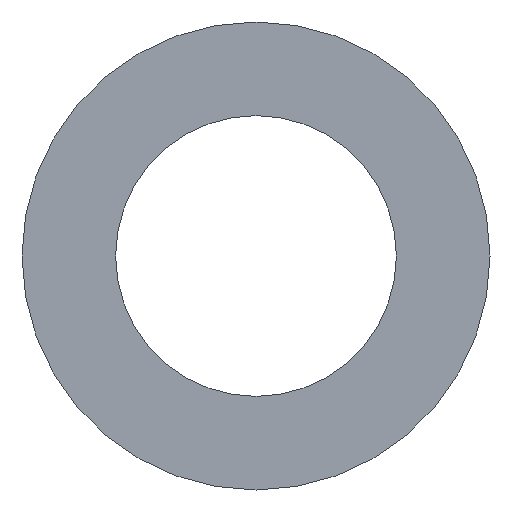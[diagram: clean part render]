
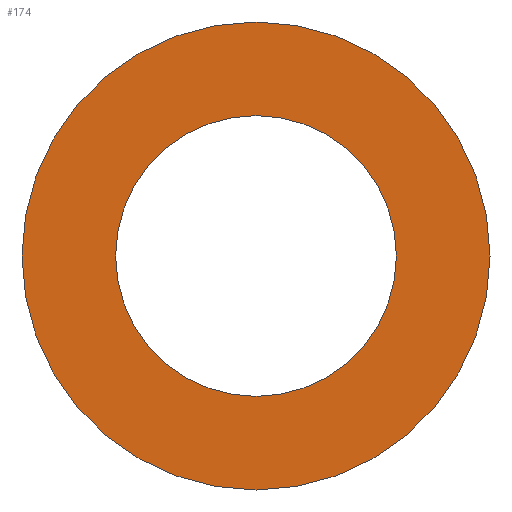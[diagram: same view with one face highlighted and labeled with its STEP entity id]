
A CAD part, left-side view. The second image highlights one B-rep face of the part: STEP entity #174.
In plain terms, the highlighted planar face has unit normal (-1, 0, 0).
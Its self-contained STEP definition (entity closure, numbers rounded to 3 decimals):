
#4 = CARTESIAN_POINT ( 'NONE',  ( 0., 1.5, 0. ) ) ;
#7 = CARTESIAN_POINT ( 'NONE',  ( 0., 0., 0. ) ) ;
#12 = CARTESIAN_POINT ( 'NONE',  ( 0., 0., 0. ) ) ;
#22 = CIRCLE ( 'NONE', #240, 2.5 ) ;
#34 = CIRCLE ( 'NONE', #96, 1.5 ) ;
#36 = ORIENTED_EDGE ( 'NONE', *, *, #121, .F. ) ;
#42 = CIRCLE ( 'NONE', #101, 1.5 ) ;
#64 = DIRECTION ( 'NONE',  ( -1., 0., 0. ) ) ;
#66 = CARTESIAN_POINT ( 'NONE',  ( 0., -1.5, 0. ) ) ;
#71 = DIRECTION ( 'NONE',  ( 0., 1., 0. ) ) ;
#73 = DIRECTION ( 'NONE',  ( -1., 0., 0. ) ) ;
#75 = AXIS2_PLACEMENT_3D ( 'NONE', #7, #165, #71 ) ;
#91 = DIRECTION ( 'NONE',  ( 1., 0., 0. ) ) ;
#96 = AXIS2_PLACEMENT_3D ( 'NONE', #162, #73, #200 ) ;
#101 = AXIS2_PLACEMENT_3D ( 'NONE', #232, #64, #140 ) ;
#107 = DIRECTION ( 'NONE',  ( 1., 0., 0. ) ) ;
#108 = CARTESIAN_POINT ( 'NONE',  ( 0., 2.5, 0. ) ) ;
#119 = VERTEX_POINT ( 'NONE', #66 ) ;
#121 = EDGE_CURVE ( 'NONE', #119, #134, #42, .T. ) ;
#126 = CARTESIAN_POINT ( 'NONE',  ( 0., -2.5, 0. ) ) ;
#134 = VERTEX_POINT ( 'NONE', #4 ) ;
#135 = EDGE_CURVE ( 'NONE', #134, #119, #34, .T. ) ;
#140 = DIRECTION ( 'NONE',  ( 0., -1., 0. ) ) ;
#144 = CARTESIAN_POINT ( 'NONE',  ( 0., 0., 0. ) ) ;
#150 = FACE_OUTER_BOUND ( 'NONE', #249, .T. ) ;
#162 = CARTESIAN_POINT ( 'NONE',  ( 0., 0., 0. ) ) ;
#165 = DIRECTION ( 'NONE',  ( 1., 0., 0. ) ) ;
#173 = ORIENTED_EDGE ( 'NONE', *, *, #229, .F. ) ;
#174 = ADVANCED_FACE ( 'NONE', ( #219, #150 ), #237, .F. ) ;
#200 = DIRECTION ( 'NONE',  ( 0., 1., 0. ) ) ;
#206 = CIRCLE ( 'NONE', #245, 2.5 ) ;
#207 = ORIENTED_EDGE ( 'NONE', *, *, #213, .F. ) ;
#212 = DIRECTION ( 'NONE',  ( 0., 1., 0. ) ) ;
#213 = EDGE_CURVE ( 'NONE', #228, #222, #22, .T. ) ;
#219 = FACE_BOUND ( 'NONE', #220, .T. ) ;
#220 = EDGE_LOOP ( 'NONE', ( #226, #36 ) ) ;
#222 = VERTEX_POINT ( 'NONE', #108 ) ;
#226 = ORIENTED_EDGE ( 'NONE', *, *, #135, .F. ) ;
#228 = VERTEX_POINT ( 'NONE', #126 ) ;
#229 = EDGE_CURVE ( 'NONE', #222, #228, #206, .T. ) ;
#232 = CARTESIAN_POINT ( 'NONE',  ( 0., 0., 0. ) ) ;
#237 = PLANE ( 'NONE',  #75 ) ;
#238 = DIRECTION ( 'NONE',  ( 0., -1., 0. ) ) ;
#240 = AXIS2_PLACEMENT_3D ( 'NONE', #144, #91, #238 ) ;
#245 = AXIS2_PLACEMENT_3D ( 'NONE', #12, #107, #212 ) ;
#249 = EDGE_LOOP ( 'NONE', ( #173, #207 ) ) ;
